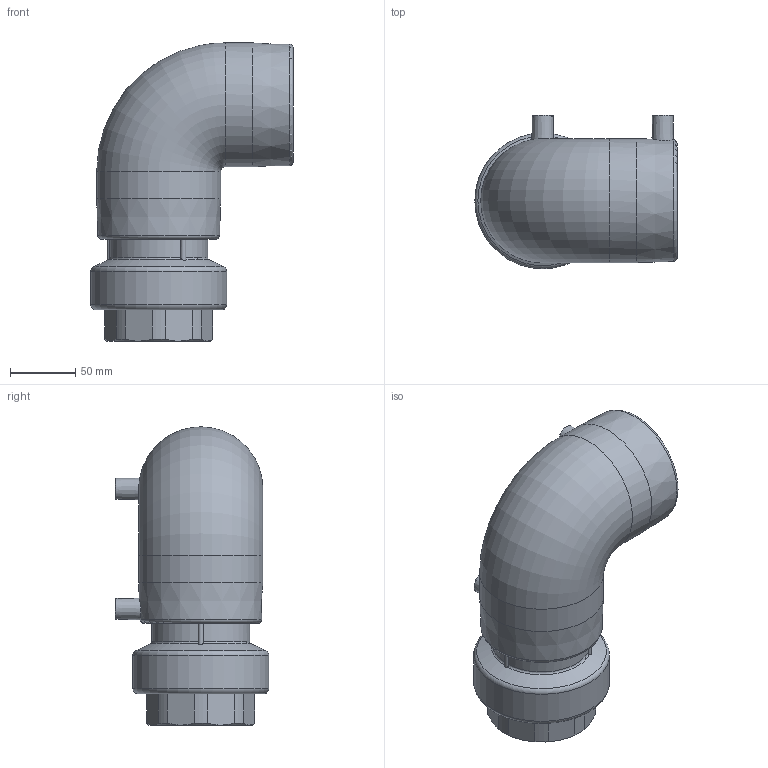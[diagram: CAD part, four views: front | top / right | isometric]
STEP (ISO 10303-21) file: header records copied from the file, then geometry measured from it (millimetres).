
FILE_DESCRIPTION(/* description */ ('Unknown'),/* implementation_level */ '2;1');
FILE_NAME(/* name */ 'GE9TFP075C',/* time_stamp */ '2021-06-08T14:51:02+02:00',/* author */ ('Unknown'),/* organization */ ('Unknown'),/* preprocessor_version */ 'ST-DEVELOPER v16.7',/* originating_system */ 'Solid Edge',/* authorisation */ 'Unknown');
FILE_SCHEMA (('AUTOMOTIVE_DESIGN {1 0 10303 214 3 1 1}'));
Length unit declared in the file: millimetre
Products named in the file (5): GE9TFP075C; GE9P075C; RTOFP075C; Parte PE 075; IOF075C
Assembly tree (4 placements, depth 3):
  GE9TFP075C
    GE9P075C
    RTOFP075C
      Parte PE 075
      IOF075C
Bounding box: 155 x 117.5 x 228.5 mm (x, y, z)
Volume: 847416.9 mm3; surface area: 213595.5 mm2
Topology: 3 solids, 3 shells, 205 faces, 491 edges, 315 vertices
Faces by surface type: plane 107, cylinder 51, torus 17, cone 15, bspline 15
Full cylindrical faces by diameter (mm): 4 x2, 6 x2, 12 x2, 61.4 x1, 67 x2, 72 x2, 72.226 x1, 75 x3, 83 x4, 83.4 x2, 89 x8, 95 x2, 104 x1
Entity records: 6551 total; most frequent: CARTESIAN_POINT 1434, DIRECTION 958, ORIENTED_EDGE 848, EDGE_CURVE 424, AXIS2_PLACEMENT_3D 397, VERTEX_POINT 295, EDGE_LOOP 281, FACE_BOUND 281
